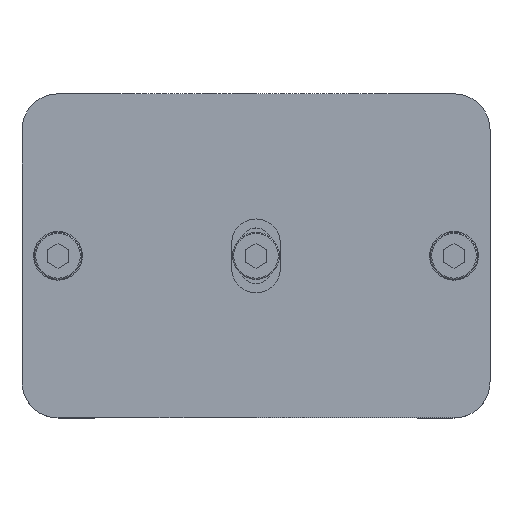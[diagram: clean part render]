
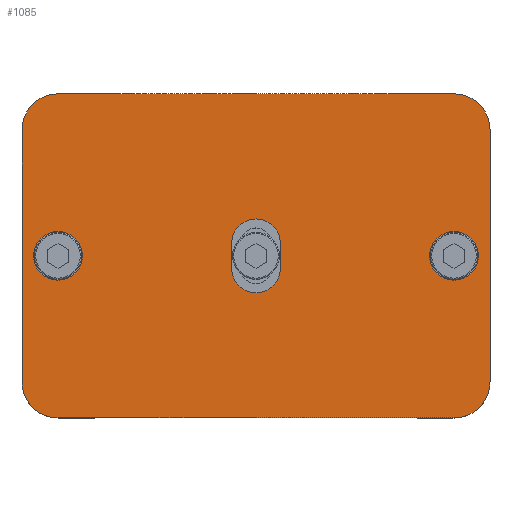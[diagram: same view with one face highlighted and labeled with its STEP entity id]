
A CAD part, top view. The second image highlights one B-rep face of the part: STEP entity #1085.
In plain terms, the highlighted planar face has unit normal (0, 0, 1).
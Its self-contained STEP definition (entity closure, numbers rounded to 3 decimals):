
#1 = DIRECTION ( 'NONE',  ( 1., 0., 0. ) ) ;
#144 = EDGE_LOOP ( 'NONE', ( #5604, #3173, #3086, #5888, #3125, #3138, #3068, #5634 ) ) ;
#178 = EDGE_LOOP ( 'NONE', ( #5655, #5675 ) ) ;
#247 = VERTEX_POINT ( 'NONE', #1199 ) ;
#297 = VERTEX_POINT ( 'NONE', #1357 ) ;
#314 = EDGE_LOOP ( 'NONE', ( #5886, #5671 ) ) ;
#367 = VERTEX_POINT ( 'NONE', #1307 ) ;
#396 = VERTEX_POINT ( 'NONE', #1240 ) ;
#411 = EDGE_LOOP ( 'NONE', ( #5624, #5570, #5579, #5673 ) ) ;
#419 = VERTEX_POINT ( 'NONE', #1219 ) ;
#459 = VERTEX_POINT ( 'NONE', #1226 ) ;
#460 = VERTEX_POINT ( 'NONE', #1230 ) ;
#467 = VERTEX_POINT ( 'NONE', #1114 ) ;
#504 = VERTEX_POINT ( 'NONE', #1096 ) ;
#506 = VERTEX_POINT ( 'NONE', #1108 ) ;
#1085 = ADVANCED_FACE ( 'NONE', ( #2103, #2101, #2139, #2136 ), #2708, .T. ) ;
#1096 = CARTESIAN_POINT ( 'NONE',  ( 48.25, 0., 5. ) ) ;
#1108 = CARTESIAN_POINT ( 'NONE',  ( 6.75, -3.5, 5. ) ) ;
#1114 = CARTESIAN_POINT ( 'NONE',  ( 55., 45., 5. ) ) ;
#1199 = CARTESIAN_POINT ( 'NONE',  ( -6.75, 3.5, 5. ) ) ;
#1219 = CARTESIAN_POINT ( 'NONE',  ( -65., 35., 5. ) ) ;
#1226 = CARTESIAN_POINT ( 'NONE',  ( 6.75, 3.5, 5. ) ) ;
#1230 = CARTESIAN_POINT ( 'NONE',  ( -61.75, 0., 5. ) ) ;
#1240 = CARTESIAN_POINT ( 'NONE',  ( 55., -45., 5. ) ) ;
#1307 = CARTESIAN_POINT ( 'NONE',  ( 61.75, 0., 5. ) ) ;
#1357 = CARTESIAN_POINT ( 'NONE',  ( -65., -35., 5. ) ) ;
#1526 = CIRCLE ( 'NONE', #3656, 10. ) ;
#1583 = CIRCLE ( 'NONE', #3665, 10. ) ;
#1605 = CIRCLE ( 'NONE', #3677, 6.75 ) ;
#1636 = VECTOR ( 'NONE', #4603, 1000. ) ;
#1641 = LINE ( 'NONE', #4611, #1636 ) ;
#1658 = VECTOR ( 'NONE', #4972, 1000. ) ;
#1660 = LINE ( 'NONE', #4625, #1658 ) ;
#1681 = VECTOR ( 'NONE', #4468, 1000. ) ;
#1682 = LINE ( 'NONE', #4915, #1681 ) ;
#1686 = CIRCLE ( 'NONE', #3639, 6.75 ) ;
#1699 = LINE ( 'NONE', #4426, #1703 ) ;
#1700 = LINE ( 'NONE', #4453, #1709 ) ;
#1702 = CIRCLE ( 'NONE', #3636, 6.75 ) ;
#1703 = VECTOR ( 'NONE', #4475, 1000. ) ;
#1709 = VECTOR ( 'NONE', #4790, 1000. ) ;
#1724 = CIRCLE ( 'NONE', #3627, 6.75 ) ;
#1739 = CIRCLE ( 'NONE', #3621, 6.75 ) ;
#1773 = VECTOR ( 'NONE', #5040, 1000. ) ;
#1779 = LINE ( 'NONE', #4784, #1773 ) ;
#1793 = CIRCLE ( 'NONE', #3623, 6.75 ) ;
#2101 = FACE_BOUND ( 'NONE', #314, .T. ) ;
#2103 = FACE_BOUND ( 'NONE', #411, .T. ) ;
#2136 = FACE_OUTER_BOUND ( 'NONE', #144, .T. ) ;
#2139 = FACE_BOUND ( 'NONE', #178, .T. ) ;
#2224 = CIRCLE ( 'NONE', #3193, 10. ) ;
#2231 = CIRCLE ( 'NONE', #3203, 10. ) ;
#2686 = DIRECTION ( 'NONE',  ( 1., 0., 0. ) ) ;
#2703 = CARTESIAN_POINT ( 'NONE',  ( 0., 0., 5. ) ) ;
#2705 = DIRECTION ( 'NONE',  ( 0., 0., 1. ) ) ;
#2708 = PLANE ( 'NONE',  #3215 ) ;
#2879 = EDGE_CURVE ( 'NONE', #4036, #467, #2224, .T. ) ;
#2880 = EDGE_CURVE ( 'NONE', #4122, #419, #2231, .T. ) ;
#3068 = ORIENTED_EDGE ( 'NONE', *, *, #3902, .T. ) ;
#3086 = ORIENTED_EDGE ( 'NONE', *, *, #3798, .T. ) ;
#3125 = ORIENTED_EDGE ( 'NONE', *, *, #3810, .T. ) ;
#3138 = ORIENTED_EDGE ( 'NONE', *, *, #2879, .T. ) ;
#3173 = ORIENTED_EDGE ( 'NONE', *, *, #3461, .T. ) ;
#3193 = AXIS2_PLACEMENT_3D ( 'NONE', #3933, #3930, #3946 ) ;
#3203 = AXIS2_PLACEMENT_3D ( 'NONE', #3931, #3928, #1 ) ;
#3215 = AXIS2_PLACEMENT_3D ( 'NONE', #2703, #2705, #2686 ) ;
#3441 = EDGE_CURVE ( 'NONE', #4135, #506, #1605, .T. ) ;
#3461 = EDGE_CURVE ( 'NONE', #297, #3979, #1583, .T. ) ;
#3480 = EDGE_CURVE ( 'NONE', #396, #4040, #1526, .T. ) ;
#3621 = AXIS2_PLACEMENT_3D ( 'NONE', #4742, #4739, #4826 ) ;
#3623 = AXIS2_PLACEMENT_3D ( 'NONE', #4800, #4755, #4805 ) ;
#3627 = AXIS2_PLACEMENT_3D ( 'NONE', #5094, #4454, #4401 ) ;
#3636 = AXIS2_PLACEMENT_3D ( 'NONE', #4463, #4461, #4460 ) ;
#3639 = AXIS2_PLACEMENT_3D ( 'NONE', #4976, #4889, #4991 ) ;
#3656 = AXIS2_PLACEMENT_3D ( 'NONE', #5089, #4423, #4429 ) ;
#3665 = AXIS2_PLACEMENT_3D ( 'NONE', #4275, #4726, #4813 ) ;
#3677 = AXIS2_PLACEMENT_3D ( 'NONE', #4536, #4952, #4431 ) ;
#3798 = EDGE_CURVE ( 'NONE', #3979, #396, #1641, .T. ) ;
#3810 = EDGE_CURVE ( 'NONE', #4040, #4036, #1660, .T. ) ;
#3840 = EDGE_CURVE ( 'NONE', #506, #459, #1682, .T. ) ;
#3845 = EDGE_CURVE ( 'NONE', #459, #247, #1686, .T. ) ;
#3857 = EDGE_CURVE ( 'NONE', #247, #4135, #1699, .T. ) ;
#3859 = EDGE_CURVE ( 'NONE', #4113, #460, #1702, .T. ) ;
#3865 = EDGE_CURVE ( 'NONE', #419, #297, #1700, .T. ) ;
#3873 = EDGE_CURVE ( 'NONE', #460, #4113, #1724, .T. ) ;
#3881 = EDGE_CURVE ( 'NONE', #367, #504, #1793, .T. ) ;
#3884 = EDGE_CURVE ( 'NONE', #504, #367, #1739, .T. ) ;
#3902 = EDGE_CURVE ( 'NONE', #467, #4122, #1779, .T. ) ;
#3928 = DIRECTION ( 'NONE',  ( 0., 0., 1. ) ) ;
#3930 = DIRECTION ( 'NONE',  ( 0., 0., 1. ) ) ;
#3931 = CARTESIAN_POINT ( 'NONE',  ( -55., 35., 5. ) ) ;
#3933 = CARTESIAN_POINT ( 'NONE',  ( 55., 35., 5. ) ) ;
#3946 = DIRECTION ( 'NONE',  ( 1., 0., 0. ) ) ;
#3979 = VERTEX_POINT ( 'NONE', #4532 ) ;
#4036 = VERTEX_POINT ( 'NONE', #4427 ) ;
#4040 = VERTEX_POINT ( 'NONE', #4673 ) ;
#4113 = VERTEX_POINT ( 'NONE', #4338 ) ;
#4122 = VERTEX_POINT ( 'NONE', #4351 ) ;
#4135 = VERTEX_POINT ( 'NONE', #4398 ) ;
#4275 = CARTESIAN_POINT ( 'NONE',  ( -55., -35., 5. ) ) ;
#4338 = CARTESIAN_POINT ( 'NONE',  ( -48.25, 0., 5. ) ) ;
#4351 = CARTESIAN_POINT ( 'NONE',  ( -55., 45., 5. ) ) ;
#4398 = CARTESIAN_POINT ( 'NONE',  ( -6.75, -3.5, 5. ) ) ;
#4401 = DIRECTION ( 'NONE',  ( 1., 0., 0. ) ) ;
#4423 = DIRECTION ( 'NONE',  ( 0., 0., 1. ) ) ;
#4426 = CARTESIAN_POINT ( 'NONE',  ( -6.75, 3.5, 5. ) ) ;
#4427 = CARTESIAN_POINT ( 'NONE',  ( 65., 35., 5. ) ) ;
#4429 = DIRECTION ( 'NONE',  ( 1., 0., 0. ) ) ;
#4431 = DIRECTION ( 'NONE',  ( 1., 0., 0. ) ) ;
#4453 = CARTESIAN_POINT ( 'NONE',  ( -65., 45., 5. ) ) ;
#4454 = DIRECTION ( 'NONE',  ( 0., 0., 1. ) ) ;
#4460 = DIRECTION ( 'NONE',  ( 1., 0., 0. ) ) ;
#4461 = DIRECTION ( 'NONE',  ( 0., 0., 1. ) ) ;
#4463 = CARTESIAN_POINT ( 'NONE',  ( -55., 0., 5. ) ) ;
#4468 = DIRECTION ( 'NONE',  ( 0., 1., 0. ) ) ;
#4475 = DIRECTION ( 'NONE',  ( 0., -1., 0. ) ) ;
#4532 = CARTESIAN_POINT ( 'NONE',  ( -55., -45., 5. ) ) ;
#4536 = CARTESIAN_POINT ( 'NONE',  ( 0., -3.5, 5. ) ) ;
#4603 = DIRECTION ( 'NONE',  ( 1., 0., 0. ) ) ;
#4611 = CARTESIAN_POINT ( 'NONE',  ( -65., -45., 5. ) ) ;
#4625 = CARTESIAN_POINT ( 'NONE',  ( 65., 45., 5. ) ) ;
#4673 = CARTESIAN_POINT ( 'NONE',  ( 65., -35., 5. ) ) ;
#4726 = DIRECTION ( 'NONE',  ( 0., 0., 1. ) ) ;
#4739 = DIRECTION ( 'NONE',  ( 0., 0., 1. ) ) ;
#4742 = CARTESIAN_POINT ( 'NONE',  ( 55., 0., 5. ) ) ;
#4755 = DIRECTION ( 'NONE',  ( 0., 0., 1. ) ) ;
#4784 = CARTESIAN_POINT ( 'NONE',  ( -65., 45., 5. ) ) ;
#4790 = DIRECTION ( 'NONE',  ( 0., -1., 0. ) ) ;
#4800 = CARTESIAN_POINT ( 'NONE',  ( 55., 0., 5. ) ) ;
#4805 = DIRECTION ( 'NONE',  ( 1., 0., 0. ) ) ;
#4813 = DIRECTION ( 'NONE',  ( 1., 0., 0. ) ) ;
#4826 = DIRECTION ( 'NONE',  ( 1., 0., 0. ) ) ;
#4889 = DIRECTION ( 'NONE',  ( 0., 0., 1. ) ) ;
#4915 = CARTESIAN_POINT ( 'NONE',  ( 6.75, 3.5, 5. ) ) ;
#4952 = DIRECTION ( 'NONE',  ( 0., 0., 1. ) ) ;
#4972 = DIRECTION ( 'NONE',  ( 0., 1., 0. ) ) ;
#4976 = CARTESIAN_POINT ( 'NONE',  ( 0., 3.5, 5. ) ) ;
#4991 = DIRECTION ( 'NONE',  ( 1., 0., 0. ) ) ;
#5040 = DIRECTION ( 'NONE',  ( -1., 0., 0. ) ) ;
#5089 = CARTESIAN_POINT ( 'NONE',  ( 55., -35., 5. ) ) ;
#5094 = CARTESIAN_POINT ( 'NONE',  ( -55., 0., 5. ) ) ;
#5570 = ORIENTED_EDGE ( 'NONE', *, *, #3840, .F. ) ;
#5579 = ORIENTED_EDGE ( 'NONE', *, *, #3441, .F. ) ;
#5604 = ORIENTED_EDGE ( 'NONE', *, *, #3865, .T. ) ;
#5624 = ORIENTED_EDGE ( 'NONE', *, *, #3845, .F. ) ;
#5634 = ORIENTED_EDGE ( 'NONE', *, *, #2880, .T. ) ;
#5655 = ORIENTED_EDGE ( 'NONE', *, *, #3859, .F. ) ;
#5671 = ORIENTED_EDGE ( 'NONE', *, *, #3884, .F. ) ;
#5673 = ORIENTED_EDGE ( 'NONE', *, *, #3857, .F. ) ;
#5675 = ORIENTED_EDGE ( 'NONE', *, *, #3873, .F. ) ;
#5886 = ORIENTED_EDGE ( 'NONE', *, *, #3881, .F. ) ;
#5888 = ORIENTED_EDGE ( 'NONE', *, *, #3480, .T. ) ;
